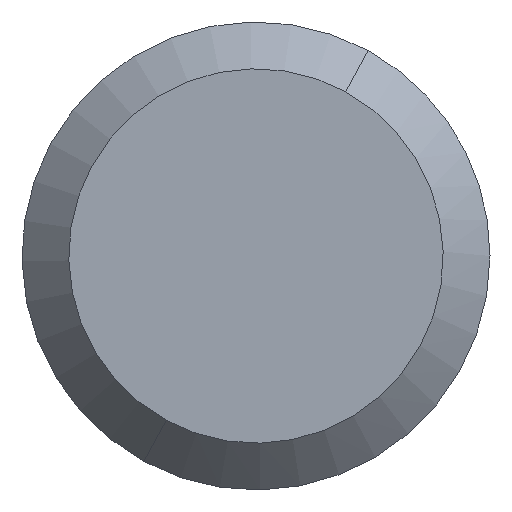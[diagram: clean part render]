
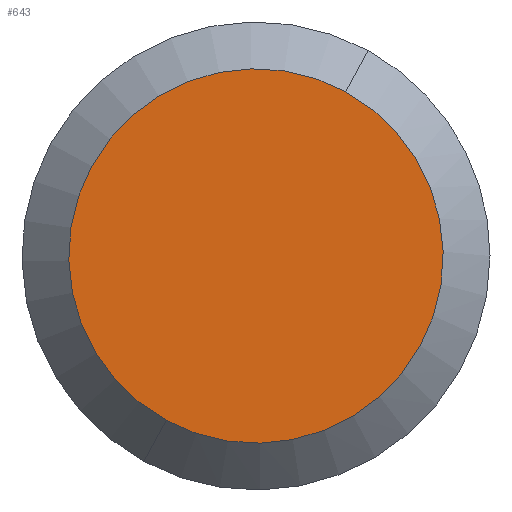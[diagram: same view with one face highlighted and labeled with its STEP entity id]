
A CAD part, front view. The second image highlights one B-rep face of the part: STEP entity #643.
In plain terms, the highlighted planar face has unit normal (0, -1, 0).
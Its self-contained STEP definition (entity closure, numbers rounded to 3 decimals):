
#105 = AXIS2_PLACEMENT_3D ( 'NONE', #372, #451, #148 ) ;
#134 = EDGE_CURVE ( 'NONE', #739, #217, #203, .T. ) ;
#148 = DIRECTION ( 'NONE',  ( 1., 0., 0. ) ) ;
#180 = EDGE_LOOP ( 'NONE', ( #366, #322 ) ) ;
#188 = CARTESIAN_POINT ( 'NONE',  ( 0., -128.513, 0. ) ) ;
#203 = CIRCLE ( 'NONE', #105, 3.2 ) ;
#217 = VERTEX_POINT ( 'NONE', #300 ) ;
#250 = DIRECTION ( 'NONE',  ( 1., 0., 0. ) ) ;
#300 = CARTESIAN_POINT ( 'NONE',  ( -1.534, -128.513, -2.808 ) ) ;
#307 = CIRCLE ( 'NONE', #738, 3.2 ) ;
#322 = ORIENTED_EDGE ( 'NONE', *, *, #721, .F. ) ;
#366 = ORIENTED_EDGE ( 'NONE', *, *, #134, .F. ) ;
#372 = CARTESIAN_POINT ( 'NONE',  ( 0., -128.513, 0. ) ) ;
#400 = PLANE ( 'NONE',  #456 ) ;
#451 = DIRECTION ( 'NONE',  ( 0., 1., 0. ) ) ;
#456 = AXIS2_PLACEMENT_3D ( 'NONE', #807, #475, #534 ) ;
#475 = DIRECTION ( 'NONE',  ( 0., 1., 0. ) ) ;
#481 = CARTESIAN_POINT ( 'NONE',  ( 1.534, -128.513, 2.808 ) ) ;
#526 = FACE_OUTER_BOUND ( 'NONE', #180, .T. ) ;
#534 = DIRECTION ( 'NONE',  ( 1., 0., 0. ) ) ;
#643 = ADVANCED_FACE ( 'NONE', ( #526 ), #400, .F. ) ;
#721 = EDGE_CURVE ( 'NONE', #217, #739, #307, .T. ) ;
#738 = AXIS2_PLACEMENT_3D ( 'NONE', #188, #756, #250 ) ;
#739 = VERTEX_POINT ( 'NONE', #481 ) ;
#756 = DIRECTION ( 'NONE',  ( 0., 1., 0. ) ) ;
#807 = CARTESIAN_POINT ( 'NONE',  ( 0., -128.513, 4. ) ) ;
